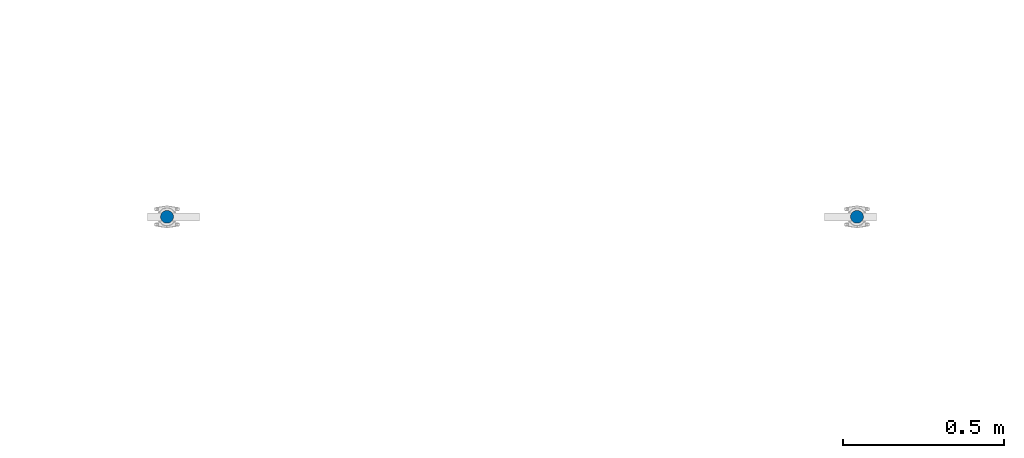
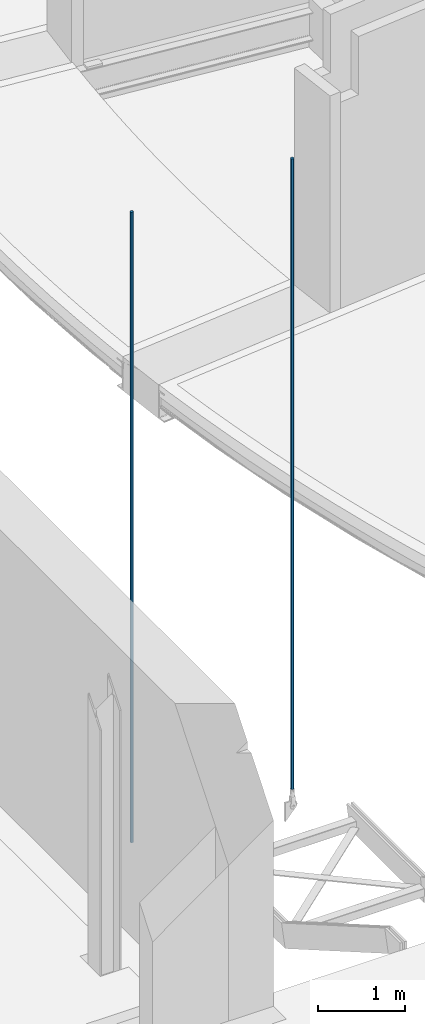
# One storey, part 2 of 37: 2 columns.
"""IFC2X3 building model written with IfcOpenShell, lengths in millimetres."""

from ifc_helpers import new_model, entity, si_unit, converted_unit, derived_unit, direction, frame, frame_2d, origin, place, context, subcontext, project, spatial, circle, extrude, source, transform, mapped, material, type_object, type_shapes, element, save


model = new_model("IFC2X3")

# Units and contexts
model_context = context("Model", 3, precision=0.01, world=origin(), true_north=direction((6.12303176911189e-17, 1.0)))
body_context = subcontext(model_context, "Body", "Model", "MODEL_VIEW")
ifc_project = project(units=[si_unit("LENGTHUNIT", "METRE", prefix="MILLI"), si_unit("AREAUNIT", "SQUARE_METRE", prefix="MILLI"), si_unit("VOLUMEUNIT", "CUBIC_METRE"), converted_unit("PLANEANGLEUNIT", "DEGREE", entity("IfcRatioMeasure", 0.0174532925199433), si_unit("PLANEANGLEUNIT", "RADIAN"), dimensions=[0, 0, 0, 0, 0, 0, 0]), si_unit("MASSUNIT", "GRAM", prefix="KILO"), derived_unit("MASSDENSITYUNIT", [(si_unit("MASSUNIT", "GRAM", prefix="KILO"), 1), (si_unit("LENGTHUNIT", "METRE"), -3)]), derived_unit("MOMENTOFINERTIAUNIT", [(si_unit("LENGTHUNIT", "METRE"), 4)]), si_unit("TIMEUNIT", "SECOND"), si_unit("FREQUENCYUNIT", "HERTZ"), si_unit("THERMODYNAMICTEMPERATUREUNIT", "DEGREE_CELSIUS"), derived_unit("THERMALTRANSMITTANCEUNIT", [(si_unit("MASSUNIT", "GRAM", prefix="KILO"), 1), (si_unit("THERMODYNAMICTEMPERATUREUNIT", "KELVIN"), -1), (si_unit("TIMEUNIT", "SECOND"), -3)]), derived_unit("VOLUMETRICFLOWRATEUNIT", [(si_unit("LENGTHUNIT", "METRE"), 3), (si_unit("TIMEUNIT", "SECOND"), -1)]), si_unit("ELECTRICCURRENTUNIT", "AMPERE"), si_unit("ELECTRICVOLTAGEUNIT", "VOLT"), si_unit("POWERUNIT", "WATT"), si_unit("FORCEUNIT", "NEWTON", prefix="KILO"), si_unit("ILLUMINANCEUNIT", "LUX"), si_unit("LUMINOUSFLUXUNIT", "LUMEN"), si_unit("LUMINOUSINTENSITYUNIT", "CANDELA"), derived_unit("USERDEFINED", [(si_unit("MASSUNIT", "GRAM", prefix="KILO"), -1), (si_unit("LENGTHUNIT", "METRE"), -2), (si_unit("TIMEUNIT", "SECOND"), 3), (si_unit("LUMINOUSFLUXUNIT", "LUMEN"), 1)]), derived_unit("LINEARVELOCITYUNIT", [(si_unit("LENGTHUNIT", "METRE"), 1), (si_unit("TIMEUNIT", "SECOND"), -1)]), si_unit("PRESSUREUNIT", "PASCAL"), derived_unit("USERDEFINED", [(si_unit("LENGTHUNIT", "METRE"), -2), (si_unit("MASSUNIT", "GRAM", prefix="KILO"), 1), (si_unit("TIMEUNIT", "SECOND"), -2)]), derived_unit("LINEARFORCEUNIT", [(si_unit("MASSUNIT", "GRAM", prefix="KILO"), 1), (si_unit("LENGTHUNIT", "METRE"), 1), (si_unit("TIMEUNIT", "SECOND"), -2), (si_unit("LENGTHUNIT", "METRE"), -1)]), derived_unit("PLANARFORCEUNIT", [(si_unit("MASSUNIT", "GRAM", prefix="KILO"), 1), (si_unit("LENGTHUNIT", "METRE"), 1), (si_unit("TIMEUNIT", "SECOND"), -2), (si_unit("LENGTHUNIT", "METRE"), -2)])], contexts=[model_context])

# Site, building, storey
site_placement = place(None, origin())
site = spatial("IfcSite", under=ifc_project, at=site_placement, Name="Theater aan de Parade", CompositionType="ELEMENT")
building_placement = place(site_placement, origin())
building = spatial("IfcBuilding", under=site, at=building_placement, Name="Theater aan de Parade", CompositionType="ELEMENT")
storey_placement = place(building_placement, frame((0.0, 0.0, 5020.0)))
storey = spatial("IfcBuildingStorey", under=building, at=storey_placement, Name="01 eerste verdieping", CompositionType="ELEMENT", Elevation=5020.0)

# Columns
ifc_material = material(Name="00_PBT_MAT_staal_S355")
column_type_1 = type_object("IfcColumnType", Name="28_PBT_SC_staal_massief_rond:D40", PredefinedType="COLUMN", material=ifc_material)
shared_shape_1 = source(origin(), body_context, "Body", "SweptSolid", [
    extrude(circle(Radius=20.0000000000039, at=frame_2d((-9.3808097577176e-25, -4.33146851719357e-12), x_axis=(1.0, 0.0))), frame((39195.8281932, 23705.0, 2832.0)), (0.0, 0.0, 1.0), 8893.0),
])
type_shapes(column_type_1, [shared_shape_1])
column_1_placement = place(storey_placement, frame((0.0, 0.0, -5020.0)))
element("IfcColumn", 1, at=column_1_placement, inside=storey, type_object=column_type_1, material=ifc_material, Name="28_PBT_SC_staal_massief_rond:D40", ObjectType="28_PBT_SC_staal_massief_rond:D40", context=body_context, shape_type="MappedRepresentation", body=[
    mapped(shared_shape_1, transform((0.0, 0.0, 0.0), scale=1.0)),
])
column_type_2 = type_object("IfcColumnType", Name="28_PBT_SC_staal_massief_rond:D40", PredefinedType="COLUMN", material=ifc_material)
shared_shape_2 = source(origin(), body_context, "Body", "SweptSolid", [
    extrude(circle(Radius=20.0000000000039, at=frame_2d((-9.3808097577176e-25, -4.33146851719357e-12), x_axis=(1.0, 0.0))), frame((41337.8281932, 23705.0, 2832.0)), (0.0, 0.0, 1.0), 8893.0),
])
type_shapes(column_type_2, [shared_shape_2])
column_2_placement = place(storey_placement, frame((0.0, 0.0, -5020.0)))
element("IfcColumn", 2, at=column_2_placement, inside=storey, type_object=column_type_2, material=ifc_material, Name="28_PBT_SC_staal_massief_rond:D40", ObjectType="28_PBT_SC_staal_massief_rond:D40", context=body_context, shape_type="MappedRepresentation", body=[
    mapped(shared_shape_2, transform((0.0, 0.0, 0.0), scale=1.0)),
])

save(model, "model.ifc")
